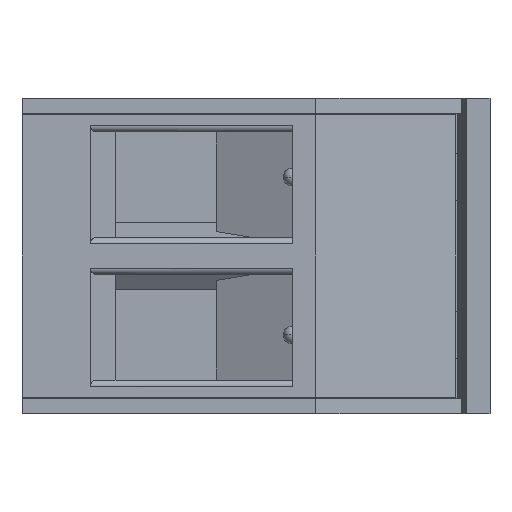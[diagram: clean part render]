
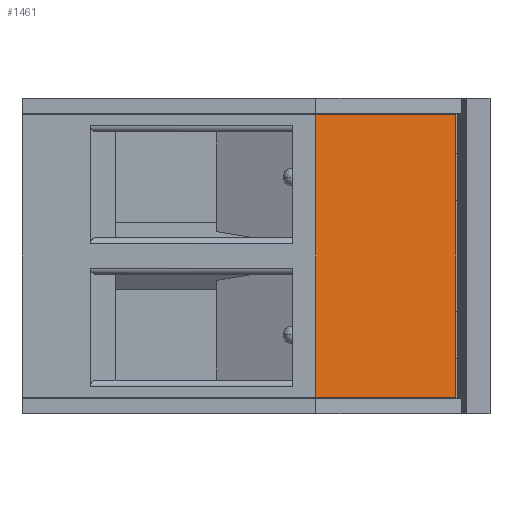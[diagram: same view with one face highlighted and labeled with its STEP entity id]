
A CAD part, front view. The second image highlights one B-rep face of the part: STEP entity #1461.
In plain terms, the highlighted planar face has unit normal (0.174, -0.985, 0).
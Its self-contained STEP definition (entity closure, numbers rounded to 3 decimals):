
#854 = DIRECTION ( 'NONE',  ( 0., 0., -1. ) ) ;
#1146 = CARTESIAN_POINT ( 'NONE',  ( 5.55, 0.3, 0.54 ) ) ;
#1461 = ADVANCED_FACE ( 'NONE', ( #4329 ), #2854, .T. ) ;
#1570 = CARTESIAN_POINT ( 'NONE',  ( 10.05, 1.093, 0.54 ) ) ;
#1694 = VECTOR ( 'NONE', #8157, 1000. ) ;
#1920 = EDGE_CURVE ( 'NONE', #7553, #2081, #8579, .T. ) ;
#2070 = ORIENTED_EDGE ( 'NONE', *, *, #3099, .T. ) ;
#2081 = VERTEX_POINT ( 'NONE', #1570 ) ;
#2771 = VECTOR ( 'NONE', #3563, 1000. ) ;
#2854 = PLANE ( 'NONE',  #3679 ) ;
#2902 = LINE ( 'NONE', #5269, #1694 ) ;
#3033 = ORIENTED_EDGE ( 'NONE', *, *, #3376, .T. ) ;
#3099 = EDGE_CURVE ( 'NONE', #8577, #2081, #5996, .T. ) ;
#3376 = EDGE_CURVE ( 'NONE', #5108, #8577, #6549, .T. ) ;
#3524 = EDGE_LOOP ( 'NONE', ( #2070, #4206, #4161, #3033 ) ) ;
#3563 = DIRECTION ( 'NONE',  ( 0., 0., -1. ) ) ;
#3679 = AXIS2_PLACEMENT_3D ( 'NONE', #8501, #8590, #5615 ) ;
#4161 = ORIENTED_EDGE ( 'NONE', *, *, #7954, .T. ) ;
#4183 = CARTESIAN_POINT ( 'NONE',  ( 5.55, 0.3, 9.62 ) ) ;
#4206 = ORIENTED_EDGE ( 'NONE', *, *, #1920, .F. ) ;
#4329 = FACE_OUTER_BOUND ( 'NONE', #3524, .T. ) ;
#4464 = CARTESIAN_POINT ( 'NONE',  ( 5.55, 0.3, 9.62 ) ) ;
#4659 = DIRECTION ( 'NONE',  ( 0.985, 0.174, 0. ) ) ;
#4955 = CARTESIAN_POINT ( 'NONE',  ( 5.55, 0.3, 0.54 ) ) ;
#5108 = VERTEX_POINT ( 'NONE', #4183 ) ;
#5206 = VECTOR ( 'NONE', #854, 1000. ) ;
#5269 = CARTESIAN_POINT ( 'NONE',  ( 10.05, 1.093, 9.62 ) ) ;
#5615 = DIRECTION ( 'NONE',  ( 0., 0., -1. ) ) ;
#5996 = LINE ( 'NONE', #1146, #9282 ) ;
#6549 = LINE ( 'NONE', #4464, #5206 ) ;
#6759 = CARTESIAN_POINT ( 'NONE',  ( 10.05, 1.093, 9.62 ) ) ;
#7553 = VERTEX_POINT ( 'NONE', #6759 ) ;
#7727 = CARTESIAN_POINT ( 'NONE',  ( 10.05, 1.093, 9.62 ) ) ;
#7954 = EDGE_CURVE ( 'NONE', #7553, #5108, #2902, .T. ) ;
#8157 = DIRECTION ( 'NONE',  ( -0.985, -0.174, 0. ) ) ;
#8501 = CARTESIAN_POINT ( 'NONE',  ( 10.05, 1.093, 20.32 ) ) ;
#8577 = VERTEX_POINT ( 'NONE', #4955 ) ;
#8579 = LINE ( 'NONE', #7727, #2771 ) ;
#8590 = DIRECTION ( 'NONE',  ( 0.174, -0.985, 0. ) ) ;
#9282 = VECTOR ( 'NONE', #4659, 1000. ) ;
